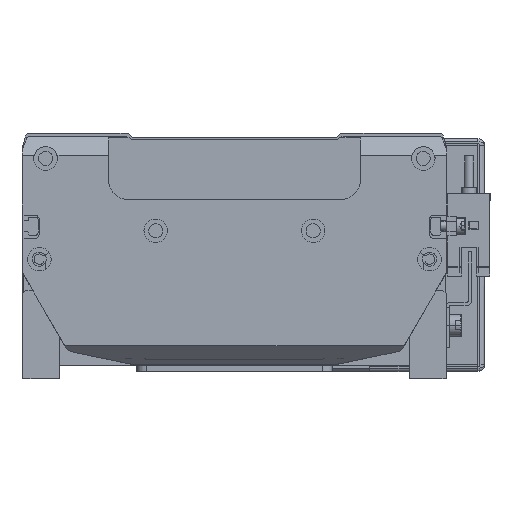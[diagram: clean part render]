
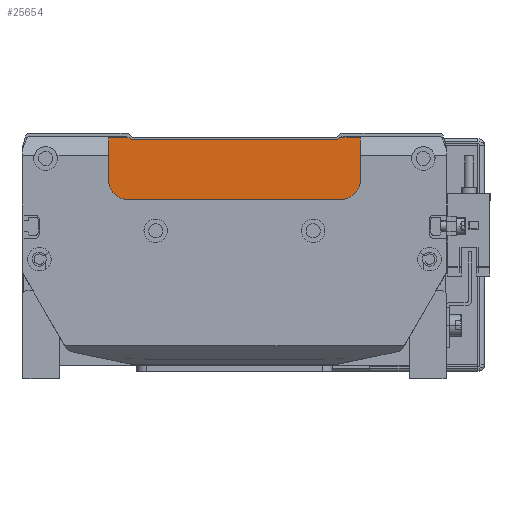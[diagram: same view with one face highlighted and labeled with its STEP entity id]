
A CAD part, front view. The second image highlights one B-rep face of the part: STEP entity #25654.
In plain terms, the highlighted planar face has unit normal (0, -1, 0) as drawn and (0, 0, -1) by its records, which use the part's own axes.
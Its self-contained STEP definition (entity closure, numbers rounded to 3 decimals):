
#377 = DIRECTION ( 'NONE',  ( 0.894, -0.447, 0. ) ) ;
#989 = ORIENTED_EDGE ( 'NONE', *, *, #22038, .T. ) ;
#1095 = CARTESIAN_POINT ( 'NONE',  ( -30.396, 21., -364. ) ) ;
#1374 = EDGE_CURVE ( 'NONE', #9149, #28276, #27714, .T. ) ;
#1440 = CARTESIAN_POINT ( 'NONE',  ( 3.604, 2., -364. ) ) ;
#2551 = CARTESIAN_POINT ( 'NONE',  ( 3.604, 1.5, -364. ) ) ;
#2558 = CARTESIAN_POINT ( 'NONE',  ( 3.604, 25., -364. ) ) ;
#3441 = DIRECTION ( 'NONE',  ( -1., 0., 0. ) ) ;
#3470 = VECTOR ( 'NONE', #32436, 1000. ) ;
#3782 = CARTESIAN_POINT ( 'NONE',  ( -29.893, 1.5, -364. ) ) ;
#3997 = CARTESIAN_POINT ( 'NONE',  ( 3.604, 21., -364. ) ) ;
#4482 = VECTOR ( 'NONE', #21236, 1000. ) ;
#4682 = VERTEX_POINT ( 'NONE', #4733 ) ;
#4733 = CARTESIAN_POINT ( 'NONE',  ( -36.396, 1.5, -364. ) ) ;
#5062 = EDGE_CURVE ( 'NONE', #18515, #4682, #16063, .T. ) ;
#5093 = LINE ( 'NONE', #16189, #13224 ) ;
#6827 = CARTESIAN_POINT ( 'NONE',  ( 43.604, 15., -364. ) ) ;
#7519 = LINE ( 'NONE', #1440, #4482 ) ;
#7702 = CARTESIAN_POINT ( 'NONE',  ( -36.396, 25., -364. ) ) ;
#7750 = CARTESIAN_POINT ( 'NONE',  ( 36.1, 2., -364. ) ) ;
#9149 = VERTEX_POINT ( 'NONE', #7750 ) ;
#9491 = FACE_OUTER_BOUND ( 'NONE', #37687, .T. ) ;
#9498 = LINE ( 'NONE', #2551, #3470 ) ;
#10624 = DIRECTION ( 'NONE',  ( 1., 0., 0. ) ) ;
#10785 = VERTEX_POINT ( 'NONE', #24074 ) ;
#11291 = VERTEX_POINT ( 'NONE', #16268 ) ;
#12239 = EDGE_CURVE ( 'NONE', #19518, #11291, #20074, .T. ) ;
#12568 = EDGE_CURVE ( 'NONE', #4682, #20511, #15448, .T. ) ;
#13008 = DIRECTION ( 'NONE',  ( 1., 0., 0. ) ) ;
#13224 = VECTOR ( 'NONE', #26207, 1000. ) ;
#13289 = DIRECTION ( 'NONE',  ( 0., 0., -1. ) ) ;
#14089 = CARTESIAN_POINT ( 'NONE',  ( -36.396, 15., -364. ) ) ;
#15448 = LINE ( 'NONE', #7702, #36157 ) ;
#16063 = LINE ( 'NONE', #22965, #32205 ) ;
#16189 = CARTESIAN_POINT ( 'NONE',  ( 43.604, 25., -364. ) ) ;
#16268 = CARTESIAN_POINT ( 'NONE',  ( 37.604, 21., -364. ) ) ;
#17537 = CIRCLE ( 'NONE', #41519, 6. ) ;
#18468 = CARTESIAN_POINT ( 'NONE',  ( -28.893, 2., -364. ) ) ;
#18515 = VERTEX_POINT ( 'NONE', #3782 ) ;
#18557 = DIRECTION ( 'NONE',  ( 0., 0., -1. ) ) ;
#18694 = DIRECTION ( 'NONE',  ( -1., 0., 0. ) ) ;
#19518 = VERTEX_POINT ( 'NONE', #1095 ) ;
#19651 = LINE ( 'NONE', #18468, #35211 ) ;
#19954 = VERTEX_POINT ( 'NONE', #39452 ) ;
#20027 = VERTEX_POINT ( 'NONE', #6827 ) ;
#20061 = ORIENTED_EDGE ( 'NONE', *, *, #30822, .T. ) ;
#20074 = LINE ( 'NONE', #3997, #41271 ) ;
#20304 = ORIENTED_EDGE ( 'NONE', *, *, #35281, .T. ) ;
#20511 = VERTEX_POINT ( 'NONE', #14089 ) ;
#20596 = EDGE_CURVE ( 'NONE', #19954, #18515, #19651, .T. ) ;
#20720 = ORIENTED_EDGE ( 'NONE', *, *, #1374, .F. ) ;
#21236 = DIRECTION ( 'NONE',  ( -1., 0., 0. ) ) ;
#21428 = ORIENTED_EDGE ( 'NONE', *, *, #12239, .T. ) ;
#22038 = EDGE_CURVE ( 'NONE', #11291, #20027, #17537, .T. ) ;
#22715 = ORIENTED_EDGE ( 'NONE', *, *, #5062, .T. ) ;
#22965 = CARTESIAN_POINT ( 'NONE',  ( 3.604, 1.5, -364. ) ) ;
#23578 = CIRCLE ( 'NONE', #34483, 6. ) ;
#23719 = VECTOR ( 'NONE', #377, 1000. ) ;
#23860 = CARTESIAN_POINT ( 'NONE',  ( 37.604, 15., -364. ) ) ;
#24074 = CARTESIAN_POINT ( 'NONE',  ( 43.604, 1.5, -364. ) ) ;
#25654 = ADVANCED_FACE ( 'NONE', ( #9491 ), #31330, .T. ) ;
#25715 = CARTESIAN_POINT ( 'NONE',  ( -30.396, 15., -364. ) ) ;
#26207 = DIRECTION ( 'NONE',  ( 0., -1., 0. ) ) ;
#27032 = DIRECTION ( 'NONE',  ( 0., 1., 0. ) ) ;
#27714 = LINE ( 'NONE', #32519, #23719 ) ;
#28276 = VERTEX_POINT ( 'NONE', #28954 ) ;
#28774 = ORIENTED_EDGE ( 'NONE', *, *, #40369, .T. ) ;
#28954 = CARTESIAN_POINT ( 'NONE',  ( 37.1, 1.5, -364. ) ) ;
#30822 = EDGE_CURVE ( 'NONE', #20027, #10785, #5093, .T. ) ;
#30840 = DIRECTION ( 'NONE',  ( -0.894, -0.447, 0. ) ) ;
#31330 = PLANE ( 'NONE',  #33661 ) ;
#32205 = VECTOR ( 'NONE', #3441, 1000. ) ;
#32436 = DIRECTION ( 'NONE',  ( -1., 0., 0. ) ) ;
#32519 = CARTESIAN_POINT ( 'NONE',  ( 0.903, 19.599, -364. ) ) ;
#33661 = AXIS2_PLACEMENT_3D ( 'NONE', #2558, #18557, #18694 ) ;
#34483 = AXIS2_PLACEMENT_3D ( 'NONE', #25715, #13289, #13008 ) ;
#35211 = VECTOR ( 'NONE', #30840, 1000. ) ;
#35242 = ORIENTED_EDGE ( 'NONE', *, *, #40012, .T. ) ;
#35281 = EDGE_CURVE ( 'NONE', #20511, #19518, #23578, .T. ) ;
#36157 = VECTOR ( 'NONE', #27032, 1000. ) ;
#36690 = DIRECTION ( 'NONE',  ( 1., 0., 0. ) ) ;
#36969 = DIRECTION ( 'NONE',  ( 0., 0., -1. ) ) ;
#37277 = ORIENTED_EDGE ( 'NONE', *, *, #12568, .T. ) ;
#37687 = EDGE_LOOP ( 'NONE', ( #39051, #22715, #37277, #20304, #21428, #989, #20061, #28774, #20720, #35242 ) ) ;
#39051 = ORIENTED_EDGE ( 'NONE', *, *, #20596, .T. ) ;
#39452 = CARTESIAN_POINT ( 'NONE',  ( -28.893, 2., -364. ) ) ;
#40012 = EDGE_CURVE ( 'NONE', #9149, #19954, #7519, .T. ) ;
#40369 = EDGE_CURVE ( 'NONE', #10785, #28276, #9498, .T. ) ;
#41271 = VECTOR ( 'NONE', #10624, 1000. ) ;
#41519 = AXIS2_PLACEMENT_3D ( 'NONE', #23860, #36969, #36690 ) ;
